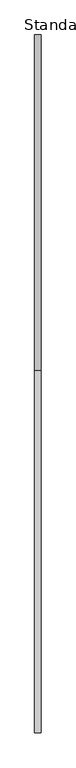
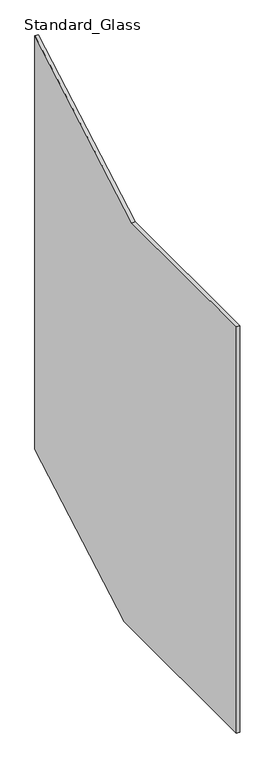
"""IFC4 building model written with IfcOpenShell, lengths in millimetres: railing geometry, Baluster-Landing-Panel-VIVA-VISIO-Upper : Standard_Glass."""

from ifc_helpers import new_model, si_unit, frame, origin, place, context, project, spatial, polyline, outline, extrude, source, transform, mapped, element, save


def standard_glass_aa243ce5(model_context):
    return source(origin(), model_context, "Body", "SweptSolid", [
        extrude(outline(polyline([(-492.404401, 1086.485), (0.0, 1367.8032978), (0.0, 86.36), (-454.0743984, -173.0597708), (-1023.6500129, -173.0597708), (-1023.6500129, 1086.485), (-492.404401, 1086.485)])), frame((31.6077292, 0.0, 0.0), z_axis=(1.0, 0.0, 0.0), x_axis=(0.0, 1.0, 0.0)), (0.0, 0.0, 1.0), 9.525),
    ])


if __name__ == "__main__":
    model = new_model("IFC4")
    model_context = context("Model", 3, world=origin())
    ifc_project = project(units=[si_unit("LENGTHUNIT", "METRE", prefix="MILLI")], contexts=[model_context])
    site = spatial("IfcSite", under=ifc_project)
    building = spatial("IfcBuilding", under=site)
    placement = place(None, origin())
    standard_glass_shape = standard_glass_aa243ce5(model_context)
    element("IfcRailing", 1, ObjectType="Baluster-Landing-Panel-VIVA-VISIO-Upper : Standard_Glass", at=placement, inside=building, context=model_context, shape_type="MappedRepresentation", body=[
        mapped(standard_glass_shape, transform((0.0, 0.0, 0.0), x_axis=(1.0, 0.0, 0.0), y_axis=(0.0, 1.0, 0.0), z_axis=(0.0, 0.0, 1.0))),
    ])
    save(model, "model.ifc")
